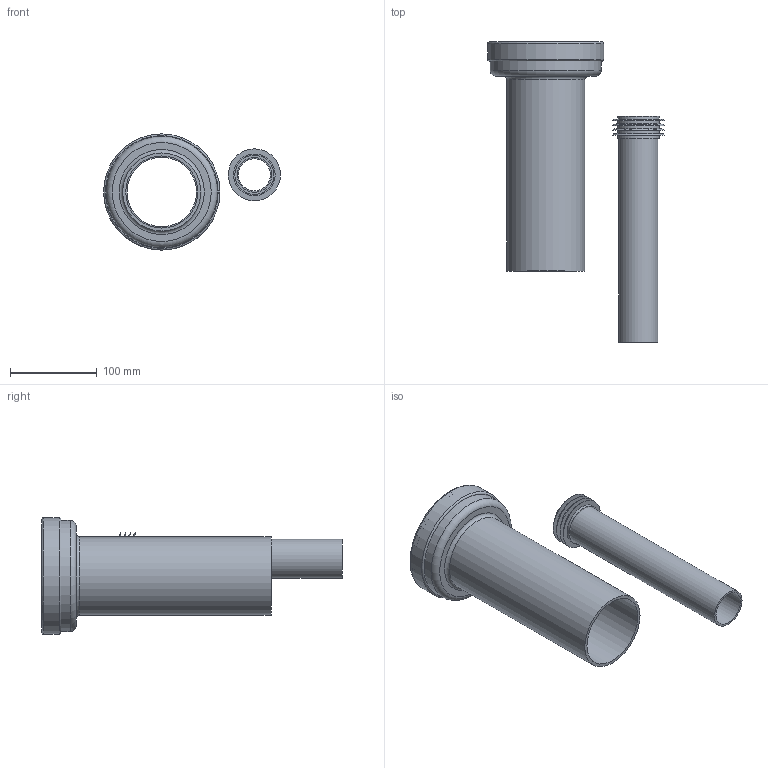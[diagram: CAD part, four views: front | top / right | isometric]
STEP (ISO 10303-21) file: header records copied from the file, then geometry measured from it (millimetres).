
FILE_DESCRIPTION( ( 'STEP AP214' ), '1' );
FILE_NAME( 'C:/Users/ilukic/Documents/ex/paket6/waste_fitting/fur_wcs_und_wandausgusse/anschlusse/ctionSet WWC PE-HD d90_45 L26.5 lp-sl/152438.stp', '2021-08-02T09:44:29', ( 'License CC BY-ND 4.0' ), ( 'CADENAS' ), ' ', 'PARTsolutions', ' ' );
FILE_SCHEMA( ( 'AUTOMOTIVE_DESIGN { 1 0 10303 214 1 1 1 1 }' ) );
Length unit declared in the file: millimetre
Products named in the file (5): 152438; _886.409; _152.424_wwc; _854.198_wwc; _119.668_wwc
Assembly tree (4 placements, depth 2):
  152438
    _886.409
    _152.424_wwc
    _854.198_wwc
    _119.668_wwc
Bounding box: 203.7 x 345.93 x 134 mm (x, y, z)
Volume: 469506.9 mm3; surface area: 292581.7 mm2
Topology: 4 solids, 4 shells, 96 faces, 169 edges, 96 vertices
Faces by surface type: cone 28, cylinder 27, plane 23, torus 18
Full cylindrical faces by diameter (mm): 37 x1, 40 x1, 42 x5, 45 x1, 48 x5, 80 x1, 83 x1, 90 x1, 122 x4, 123.6 x3, 127 x1, 128 x1, 132 x1, 134 x1
Entity records: 2810 total; most frequent: DIRECTION 394, CARTESIAN_POINT 297, AXIS2_PLACEMENT_3D 197, EDGE_LOOP 192, ORIENTED_EDGE 192, FACE_OUTER_BOUND 141, VERTEX_POINT 100, STYLED_ITEM 96
